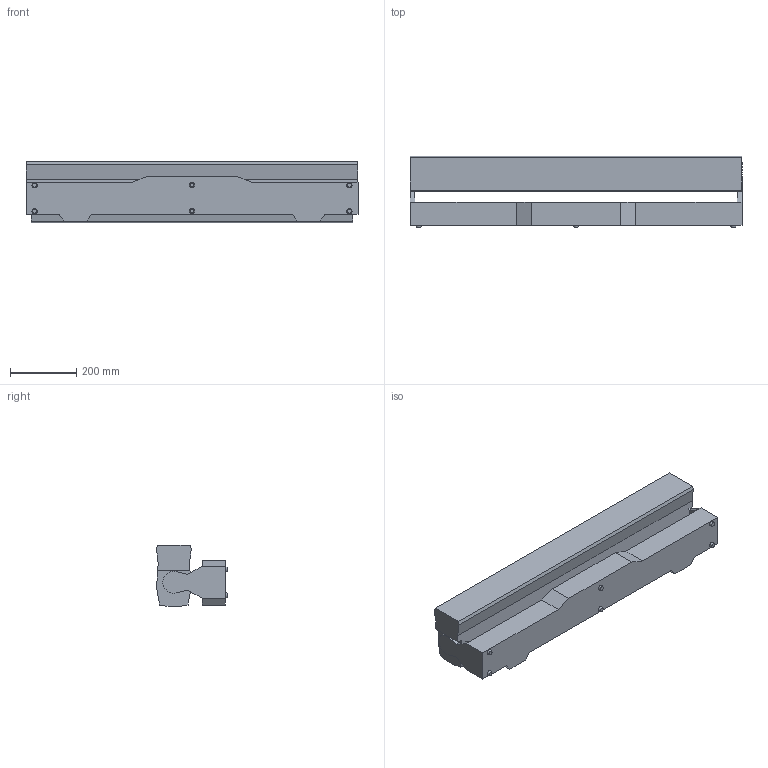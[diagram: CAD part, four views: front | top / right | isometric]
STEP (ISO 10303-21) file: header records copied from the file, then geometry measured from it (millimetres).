
FILE_DESCRIPTION(/* description */ (''),/* implementation_level */ '2;1');
FILE_NAME(/* name */ 'C:\Users\dgooch\Documents\CADENG\PRO\COLORado PXL 16\90\COLORado PXL 16_90.stp',/* time_stamp */ '2022-01-27T13:43:11-05:00',/* author */ ('dgooch'),/* organization */ (''),/* preprocessor_version */ 'ST-DEVELOPER v18.1',/* originating_system */ 'Autodesk Inventor 2022',/* authorisation */ '');
FILE_SCHEMA (('AUTOMOTIVE_DESIGN { 1 0 10303 214 3 1 1 }'));
Length unit declared in the file: millimetre
Products named in the file (3): COLORado PXL 16_90; Base; Head
Assembly tree (2 placements, depth 2):
  COLORado PXL 16_90
    Base
    Head
Bounding box: 1000 x 214.53 x 184.16 mm (x, y, z)
Volume: 25178801.9 mm3; surface area: 980891 mm2
Topology: 2 solids, 2 shells, 58 faces, 144 edges, 96 vertices
Faces by surface type: plane 49, cone 6, cylinder 3
Entity records: 1831 total; most frequent: CARTESIAN_POINT 303, ORIENTED_EDGE 288, DIRECTION 288, EDGE_CURVE 144, LINE 126, VECTOR 126, VERTEX_POINT 96, AXIS2_PLACEMENT_3D 81
